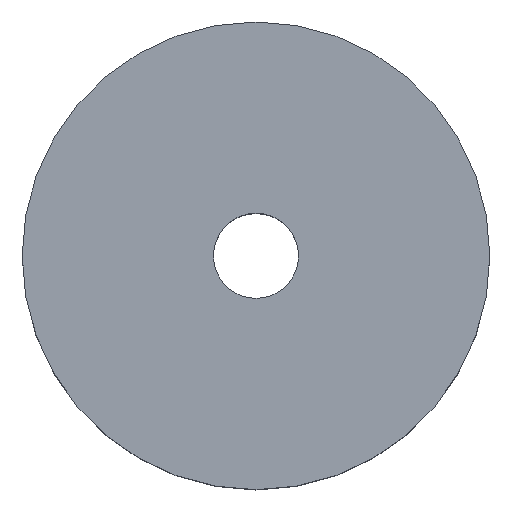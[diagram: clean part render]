
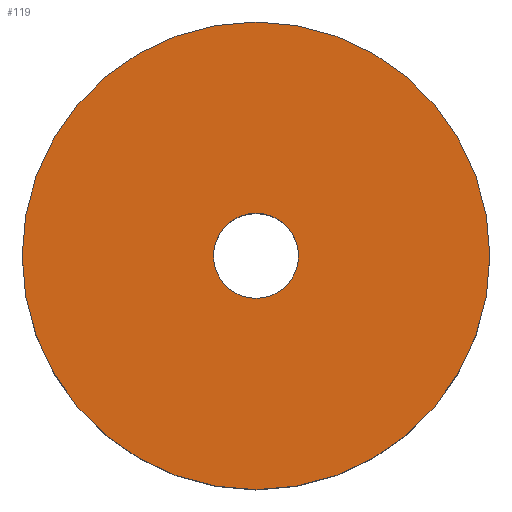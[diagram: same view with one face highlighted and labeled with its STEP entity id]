
A CAD part, top view. The second image highlights one B-rep face of the part: STEP entity #119.
In plain terms, the highlighted planar face has unit normal (0, 0, 1).
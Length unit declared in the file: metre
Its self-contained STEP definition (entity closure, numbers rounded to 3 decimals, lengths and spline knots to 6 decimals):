
#7 = CIRCLE ( 'NONE', #147, 0.033 ) ;
#13 = DIRECTION ( 'NONE',  ( 0., 0., 1. ) ) ;
#30 = CIRCLE ( 'NONE', #245, 0.033 ) ;
#46 = AXIS2_PLACEMENT_3D ( 'NONE', #242, #121, #186 ) ;
#49 = PLANE ( 'NONE',  #243 ) ;
#50 = CARTESIAN_POINT ( 'NONE',  ( 0., 0., 0. ) ) ;
#53 = DIRECTION ( 'NONE',  ( 0., 0., 1. ) ) ;
#60 = DIRECTION ( 'NONE',  ( 1., 0., 0. ) ) ;
#62 = EDGE_CURVE ( 'NONE', #73, #153, #131, .T. ) ;
#64 = DIRECTION ( 'NONE',  ( 0., 0., 1. ) ) ;
#73 = VERTEX_POINT ( 'NONE', #141 ) ;
#79 = ORIENTED_EDGE ( 'NONE', *, *, #171, .T. ) ;
#83 = CARTESIAN_POINT ( 'NONE',  ( 0., 0., 0. ) ) ;
#86 = FACE_BOUND ( 'NONE', #135, .T. ) ;
#93 = VERTEX_POINT ( 'NONE', #161 ) ;
#98 = EDGE_CURVE ( 'NONE', #134, #93, #30, .T. ) ;
#112 = ORIENTED_EDGE ( 'NONE', *, *, #62, .F. ) ;
#114 = CIRCLE ( 'NONE', #123, 0.006 ) ;
#116 = EDGE_LOOP ( 'NONE', ( #79, #236 ) ) ;
#117 = EDGE_CURVE ( 'NONE', #153, #73, #114, .T. ) ;
#119 = ADVANCED_FACE ( 'NONE', ( #86, #127 ), #49, .T. ) ;
#121 = DIRECTION ( 'NONE',  ( 0., 0., 1. ) ) ;
#123 = AXIS2_PLACEMENT_3D ( 'NONE', #50, #64, #230 ) ;
#127 = FACE_OUTER_BOUND ( 'NONE', #116, .T. ) ;
#131 = CIRCLE ( 'NONE', #46, 0.006 ) ;
#134 = VERTEX_POINT ( 'NONE', #247 ) ;
#135 = EDGE_LOOP ( 'NONE', ( #211, #112 ) ) ;
#141 = CARTESIAN_POINT ( 'NONE',  ( -0.006, 0., 0. ) ) ;
#147 = AXIS2_PLACEMENT_3D ( 'NONE', #148, #13, #188 ) ;
#148 = CARTESIAN_POINT ( 'NONE',  ( 0., 0., 0. ) ) ;
#153 = VERTEX_POINT ( 'NONE', #174 ) ;
#161 = CARTESIAN_POINT ( 'NONE',  ( 0.033, 0., 0. ) ) ;
#171 = EDGE_CURVE ( 'NONE', #93, #134, #7, .T. ) ;
#174 = CARTESIAN_POINT ( 'NONE',  ( 0.006, 0., 0. ) ) ;
#186 = DIRECTION ( 'NONE',  ( 1., 0., 0. ) ) ;
#188 = DIRECTION ( 'NONE',  ( 1., 0., 0. ) ) ;
#189 = DIRECTION ( 'NONE',  ( 1., 0., 0. ) ) ;
#211 = ORIENTED_EDGE ( 'NONE', *, *, #117, .F. ) ;
#226 = CARTESIAN_POINT ( 'NONE',  ( 0., 0., 0. ) ) ;
#230 = DIRECTION ( 'NONE',  ( 1., 0., 0. ) ) ;
#236 = ORIENTED_EDGE ( 'NONE', *, *, #98, .T. ) ;
#239 = DIRECTION ( 'NONE',  ( 0., 0., 1. ) ) ;
#242 = CARTESIAN_POINT ( 'NONE',  ( 0., 0., 0. ) ) ;
#243 = AXIS2_PLACEMENT_3D ( 'NONE', #226, #53, #189 ) ;
#245 = AXIS2_PLACEMENT_3D ( 'NONE', #83, #239, #60 ) ;
#247 = CARTESIAN_POINT ( 'NONE',  ( -0.033, 0., 0. ) ) ;
